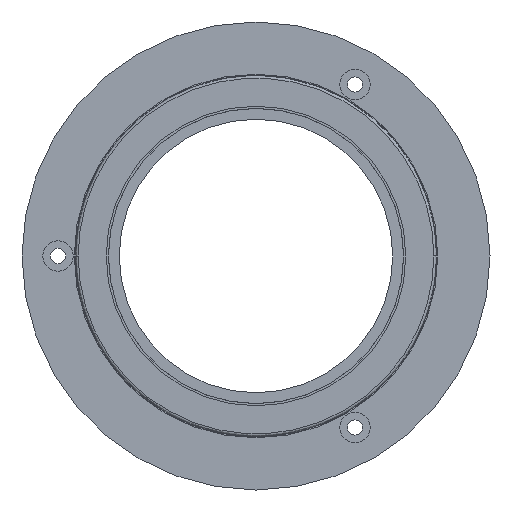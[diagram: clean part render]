
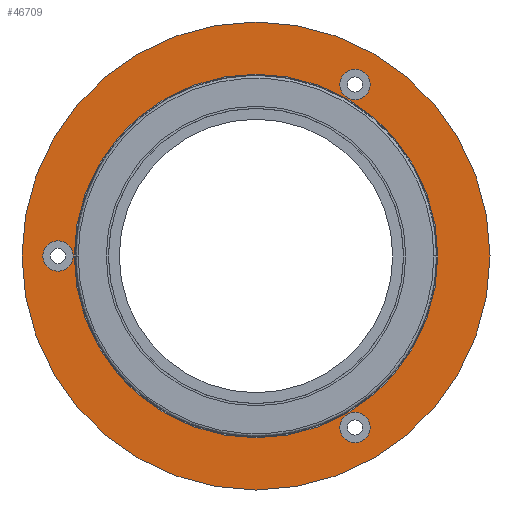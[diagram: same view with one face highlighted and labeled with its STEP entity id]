
A CAD part, left-side view. The second image highlights one B-rep face of the part: STEP entity #46709.
In plain terms, the highlighted planar face has unit normal (-1, 0, 0).
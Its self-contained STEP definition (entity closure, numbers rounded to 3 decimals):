
#43 = EDGE_LOOP ( 'NONE', ( #80054, #86864 ) ) ;
#1048 = EDGE_CURVE ( 'NONE', #39557, #9051, #52139, .T. ) ;
#1273 = AXIS2_PLACEMENT_3D ( 'NONE', #40975, #99425, #99072 ) ;
#1513 = DIRECTION ( 'NONE',  ( -1., 0., 0. ) ) ;
#3229 = VERTEX_POINT ( 'NONE', #29173 ) ;
#3471 = VERTEX_POINT ( 'NONE', #30620 ) ;
#3577 = FACE_OUTER_BOUND ( 'NONE', #43, .T. ) ;
#4022 = DIRECTION ( 'NONE',  ( 0., 1., 0. ) ) ;
#5161 = DIRECTION ( 'NONE',  ( 1., 0., 0. ) ) ;
#7128 = DIRECTION ( 'NONE',  ( 0., 1., 0. ) ) ;
#9051 = VERTEX_POINT ( 'NONE', #96956 ) ;
#16063 = AXIS2_PLACEMENT_3D ( 'NONE', #62900, #20197, #4022 ) ;
#16916 = DIRECTION ( 'NONE',  ( 0., -1., 0. ) ) ;
#18521 = AXIS2_PLACEMENT_3D ( 'NONE', #91582, #76204, #16916 ) ;
#18567 = DIRECTION ( 'NONE',  ( -1., 0., 0. ) ) ;
#19559 = AXIS2_PLACEMENT_3D ( 'NONE', #88237, #80535, #63982 ) ;
#20197 = DIRECTION ( 'NONE',  ( 1., 0., 0. ) ) ;
#22101 = CIRCLE ( 'NONE', #16063, 22.5 ) ;
#22599 = CIRCLE ( 'NONE', #83562, 2.1 ) ;
#22681 = EDGE_LOOP ( 'NONE', ( #51078, #79006 ) ) ;
#23251 = EDGE_LOOP ( 'NONE', ( #90765, #75696 ) ) ;
#23299 = FACE_BOUND ( 'NONE', #22681, .T. ) ;
#23578 = DIRECTION ( 'NONE',  ( 0., -1., 0. ) ) ;
#23705 = CARTESIAN_POINT ( 'NONE',  ( 2.8, -11.65, 23.816 ) ) ;
#26094 = FACE_BOUND ( 'NONE', #23251, .T. ) ;
#28659 = ORIENTED_EDGE ( 'NONE', *, *, #58423, .T. ) ;
#29129 = EDGE_CURVE ( 'NONE', #39507, #64943, #22101, .T. ) ;
#29173 = CARTESIAN_POINT ( 'NONE',  ( 2.8, -15.85, -23.816 ) ) ;
#30620 = CARTESIAN_POINT ( 'NONE',  ( 2.8, -15.85, 23.816 ) ) ;
#32508 = DIRECTION ( 'NONE',  ( 0., -1., 0. ) ) ;
#33008 = AXIS2_PLACEMENT_3D ( 'NONE', #86117, #1513, #36066 ) ;
#33698 = EDGE_CURVE ( 'NONE', #3229, #62861, #79773, .T. ) ;
#36066 = DIRECTION ( 'NONE',  ( 0., 1., 0. ) ) ;
#37454 = EDGE_CURVE ( 'NONE', #105167, #3471, #46311, .T. ) ;
#38250 = CARTESIAN_POINT ( 'NONE',  ( 2.8, 29.6, 0. ) ) ;
#38515 = CIRCLE ( 'NONE', #55212, 22.5 ) ;
#39507 = VERTEX_POINT ( 'NONE', #42281 ) ;
#39557 = VERTEX_POINT ( 'NONE', #66117 ) ;
#40975 = CARTESIAN_POINT ( 'NONE',  ( 2.8, 0., 0. ) ) ;
#41047 = EDGE_LOOP ( 'NONE', ( #65560, #90306 ) ) ;
#42245 = EDGE_CURVE ( 'NONE', #9051, #39557, #72953, .T. ) ;
#42281 = CARTESIAN_POINT ( 'NONE',  ( 2.8, 22.5, 0. ) ) ;
#42779 = CIRCLE ( 'NONE', #89183, 2.1 ) ;
#44789 = AXIS2_PLACEMENT_3D ( 'NONE', #72515, #5161, #98183 ) ;
#46311 = CIRCLE ( 'NONE', #44789, 2.1 ) ;
#46709 = ADVANCED_FACE ( 'NONE', ( #3577, #23299, #90565, #76176, #26094 ), #50242, .T. ) ;
#50242 = PLANE ( 'NONE',  #81222 ) ;
#51078 = ORIENTED_EDGE ( 'NONE', *, *, #29129, .T. ) ;
#51721 = AXIS2_PLACEMENT_3D ( 'NONE', #66041, #82932, #32508 ) ;
#52139 = CIRCLE ( 'NONE', #33008, 32.5 ) ;
#54817 = EDGE_CURVE ( 'NONE', #3471, #105167, #60782, .T. ) ;
#55212 = AXIS2_PLACEMENT_3D ( 'NONE', #56826, #57537, #7128 ) ;
#56826 = CARTESIAN_POINT ( 'NONE',  ( 2.8, 0., 0. ) ) ;
#57537 = DIRECTION ( 'NONE',  ( 1., 0., 0. ) ) ;
#58423 = EDGE_CURVE ( 'NONE', #62861, #3229, #22599, .T. ) ;
#60782 = CIRCLE ( 'NONE', #51721, 2.1 ) ;
#62861 = VERTEX_POINT ( 'NONE', #92916 ) ;
#62900 = CARTESIAN_POINT ( 'NONE',  ( 2.8, 0., 0. ) ) ;
#63055 = EDGE_CURVE ( 'NONE', #96864, #98790, #94330, .T. ) ;
#63982 = DIRECTION ( 'NONE',  ( 0., -1., 0. ) ) ;
#64627 = DIRECTION ( 'NONE',  ( 0., -1., 0. ) ) ;
#64943 = VERTEX_POINT ( 'NONE', #108684 ) ;
#65560 = ORIENTED_EDGE ( 'NONE', *, *, #54817, .T. ) ;
#65988 = ORIENTED_EDGE ( 'NONE', *, *, #33698, .T. ) ;
#66041 = CARTESIAN_POINT ( 'NONE',  ( 2.8, -13.75, 23.816 ) ) ;
#66117 = CARTESIAN_POINT ( 'NONE',  ( 2.8, -32.5, 0. ) ) ;
#71257 = EDGE_CURVE ( 'NONE', #64943, #39507, #38515, .T. ) ;
#72515 = CARTESIAN_POINT ( 'NONE',  ( 2.8, -13.75, 23.816 ) ) ;
#72937 = CARTESIAN_POINT ( 'NONE',  ( 2.8, -13.75, -23.816 ) ) ;
#72953 = CIRCLE ( 'NONE', #1273, 32.5 ) ;
#74164 = CARTESIAN_POINT ( 'NONE',  ( 2.8, 27.5, 0. ) ) ;
#75137 = CARTESIAN_POINT ( 'NONE',  ( 2.8, 25.4, 0. ) ) ;
#75696 = ORIENTED_EDGE ( 'NONE', *, *, #63055, .T. ) ;
#76176 = FACE_BOUND ( 'NONE', #90338, .T. ) ;
#76204 = DIRECTION ( 'NONE',  ( 1., 0., 0. ) ) ;
#79006 = ORIENTED_EDGE ( 'NONE', *, *, #71257, .T. ) ;
#79773 = CIRCLE ( 'NONE', #18521, 2.1 ) ;
#80054 = ORIENTED_EDGE ( 'NONE', *, *, #42245, .T. ) ;
#80535 = DIRECTION ( 'NONE',  ( 1., 0., 0. ) ) ;
#81222 = AXIS2_PLACEMENT_3D ( 'NONE', #108990, #18567, #94691 ) ;
#82932 = DIRECTION ( 'NONE',  ( 1., 0., 0. ) ) ;
#83562 = AXIS2_PLACEMENT_3D ( 'NONE', #72937, #90903, #23578 ) ;
#86117 = CARTESIAN_POINT ( 'NONE',  ( 2.8, 0., 0. ) ) ;
#86864 = ORIENTED_EDGE ( 'NONE', *, *, #1048, .T. ) ;
#88237 = CARTESIAN_POINT ( 'NONE',  ( 2.8, 27.5, 0. ) ) ;
#89183 = AXIS2_PLACEMENT_3D ( 'NONE', #74164, #98039, #64627 ) ;
#89662 = EDGE_CURVE ( 'NONE', #98790, #96864, #42779, .T. ) ;
#90306 = ORIENTED_EDGE ( 'NONE', *, *, #37454, .T. ) ;
#90338 = EDGE_LOOP ( 'NONE', ( #65988, #28659 ) ) ;
#90565 = FACE_BOUND ( 'NONE', #41047, .T. ) ;
#90765 = ORIENTED_EDGE ( 'NONE', *, *, #89662, .T. ) ;
#90903 = DIRECTION ( 'NONE',  ( 1., 0., 0. ) ) ;
#91582 = CARTESIAN_POINT ( 'NONE',  ( 2.8, -13.75, -23.816 ) ) ;
#92916 = CARTESIAN_POINT ( 'NONE',  ( 2.8, -11.65, -23.816 ) ) ;
#94330 = CIRCLE ( 'NONE', #19559, 2.1 ) ;
#94691 = DIRECTION ( 'NONE',  ( 0., -1., 0. ) ) ;
#96864 = VERTEX_POINT ( 'NONE', #38250 ) ;
#96956 = CARTESIAN_POINT ( 'NONE',  ( 2.8, 32.5, 0. ) ) ;
#98039 = DIRECTION ( 'NONE',  ( 1., 0., 0. ) ) ;
#98183 = DIRECTION ( 'NONE',  ( 0., -1., 0. ) ) ;
#98790 = VERTEX_POINT ( 'NONE', #75137 ) ;
#99072 = DIRECTION ( 'NONE',  ( 0., 1., 0. ) ) ;
#99425 = DIRECTION ( 'NONE',  ( -1., 0., 0. ) ) ;
#105167 = VERTEX_POINT ( 'NONE', #23705 ) ;
#108684 = CARTESIAN_POINT ( 'NONE',  ( 2.8, -22.5, 0. ) ) ;
#108990 = CARTESIAN_POINT ( 'NONE',  ( 2.8, 22.5, 0. ) ) ;
